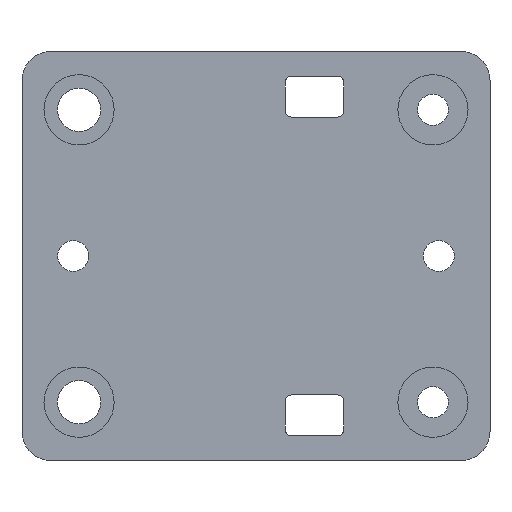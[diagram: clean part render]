
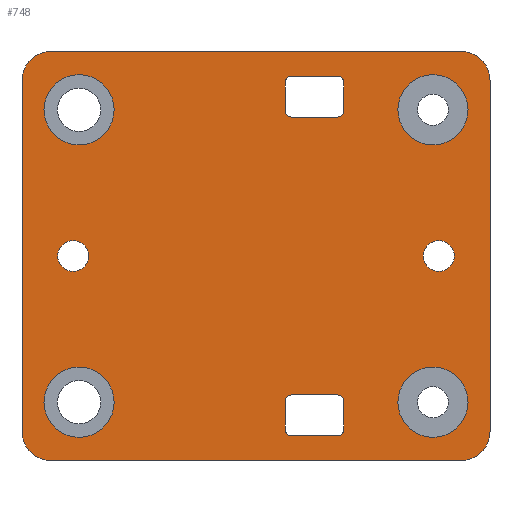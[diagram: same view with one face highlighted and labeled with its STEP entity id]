
A CAD part, front view. The second image highlights one B-rep face of the part: STEP entity #748.
In plain terms, the highlighted planar face has unit normal (0, -1, 0).
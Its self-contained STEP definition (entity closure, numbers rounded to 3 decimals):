
#27=FACE_BOUND('',#145,.T.);
#28=FACE_BOUND('',#146,.T.);
#29=FACE_BOUND('',#147,.T.);
#30=FACE_BOUND('',#148,.T.);
#31=FACE_BOUND('',#149,.T.);
#32=FACE_BOUND('',#150,.T.);
#33=FACE_BOUND('',#151,.T.);
#34=FACE_BOUND('',#152,.T.);
#52=PLANE('',#846);
#92=FACE_OUTER_BOUND('',#144,.T.);
#144=EDGE_LOOP('',(#657,#658,#659,#660,#661,#662,#663,#664));
#145=EDGE_LOOP('',(#665));
#146=EDGE_LOOP('',(#666));
#147=EDGE_LOOP('',(#667));
#148=EDGE_LOOP('',(#668));
#149=EDGE_LOOP('',(#669,#670,#671,#672,#673,#674,#675,#676));
#150=EDGE_LOOP('',(#677,#678,#679,#680,#681,#682,#683,#684));
#151=EDGE_LOOP('',(#685));
#152=EDGE_LOOP('',(#686));
#161=LINE('',#1131,#219);
#165=LINE('',#1143,#223);
#169=LINE('',#1155,#227);
#174=LINE('',#1167,#232);
#177=LINE('',#1179,#235);
#183=LINE('',#1194,#241);
#187=LINE('',#1206,#245);
#190=LINE('',#1215,#248);
#199=LINE('',#1250,#257);
#205=LINE('',#1270,#263);
#208=LINE('',#1278,#266);
#210=LINE('',#1284,#268);
#219=VECTOR('',#913,10.);
#223=VECTOR('',#925,10.);
#227=VECTOR('',#937,10.);
#232=VECTOR('',#950,10.);
#235=VECTOR('',#961,10.);
#241=VECTOR('',#975,10.);
#245=VECTOR('',#987,10.);
#248=VECTOR('',#998,10.);
#257=VECTOR('',#1035,10.);
#263=VECTOR('',#1055,10.);
#266=VECTOR('',#1064,10.);
#268=VECTOR('',#1072,10.);
#269=CIRCLE('',#764,6.);
#272=CIRCLE('',#769,6.);
#275=CIRCLE('',#774,6.);
#278=CIRCLE('',#779,6.);
#283=CIRCLE('',#788,1.);
#285=CIRCLE('',#792,1.);
#287=CIRCLE('',#796,1.);
#289=CIRCLE('',#800,1.);
#291=CIRCLE('',#804,1.);
#293=CIRCLE('',#808,1.);
#295=CIRCLE('',#812,1.);
#297=CIRCLE('',#816,1.);
#299=CIRCLE('',#820,2.65);
#303=CIRCLE('',#827,2.65);
#306=CIRCLE('',#831,5.);
#310=CIRCLE('',#838,5.);
#311=CIRCLE('',#841,5.);
#312=CIRCLE('',#844,5.);
#313=VERTEX_POINT('',#1077);
#316=VERTEX_POINT('',#1086);
#319=VERTEX_POINT('',#1095);
#322=VERTEX_POINT('',#1104);
#327=VERTEX_POINT('',#1121);
#328=VERTEX_POINT('',#1122);
#331=VERTEX_POINT('',#1130);
#333=VERTEX_POINT('',#1136);
#335=VERTEX_POINT('',#1142);
#337=VERTEX_POINT('',#1148);
#339=VERTEX_POINT('',#1154);
#341=VERTEX_POINT('',#1160);
#343=VERTEX_POINT('',#1169);
#344=VERTEX_POINT('',#1170);
#347=VERTEX_POINT('',#1178);
#349=VERTEX_POINT('',#1184);
#350=VERTEX_POINT('',#1185);
#353=VERTEX_POINT('',#1196);
#354=VERTEX_POINT('',#1197);
#357=VERTEX_POINT('',#1208);
#359=VERTEX_POINT('',#1217);
#363=VERTEX_POINT('',#1231);
#367=VERTEX_POINT('',#1240);
#368=VERTEX_POINT('',#1242);
#370=VERTEX_POINT('',#1248);
#376=VERTEX_POINT('',#1264);
#377=VERTEX_POINT('',#1268);
#378=VERTEX_POINT('',#1272);
#379=VERTEX_POINT('',#1276);
#380=VERTEX_POINT('',#1280);
#381=EDGE_CURVE('',#313,#313,#269,.T.);
#385=EDGE_CURVE('',#316,#316,#272,.T.);
#389=EDGE_CURVE('',#319,#319,#275,.T.);
#393=EDGE_CURVE('',#322,#322,#278,.T.);
#401=EDGE_CURVE('',#327,#328,#283,.T.);
#405=EDGE_CURVE('',#331,#328,#161,.T.);
#408=EDGE_CURVE('',#331,#333,#285,.T.);
#411=EDGE_CURVE('',#335,#333,#165,.T.);
#414=EDGE_CURVE('',#335,#337,#287,.T.);
#417=EDGE_CURVE('',#339,#337,#169,.T.);
#420=EDGE_CURVE('',#339,#341,#289,.T.);
#424=EDGE_CURVE('',#327,#341,#174,.T.);
#425=EDGE_CURVE('',#343,#344,#291,.T.);
#429=EDGE_CURVE('',#347,#344,#177,.T.);
#432=EDGE_CURVE('',#349,#350,#293,.T.);
#437=EDGE_CURVE('',#343,#350,#183,.T.);
#438=EDGE_CURVE('',#353,#354,#295,.T.);
#443=EDGE_CURVE('',#349,#354,#187,.T.);
#444=EDGE_CURVE('',#347,#357,#297,.T.);
#448=EDGE_CURVE('',#353,#357,#190,.T.);
#449=EDGE_CURVE('',#359,#359,#299,.T.);
#456=EDGE_CURVE('',#363,#363,#303,.T.);
#461=EDGE_CURVE('',#367,#368,#306,.T.);
#465=EDGE_CURVE('',#370,#367,#199,.T.);
#473=EDGE_CURVE('',#376,#370,#310,.T.);
#475=EDGE_CURVE('',#377,#376,#205,.T.);
#477=EDGE_CURVE('',#378,#377,#311,.T.);
#479=EDGE_CURVE('',#379,#378,#208,.T.);
#481=EDGE_CURVE('',#380,#379,#312,.T.);
#482=EDGE_CURVE('',#368,#380,#210,.T.);
#657=ORIENTED_EDGE('',*,*,#461,.F.);
#658=ORIENTED_EDGE('',*,*,#465,.F.);
#659=ORIENTED_EDGE('',*,*,#473,.F.);
#660=ORIENTED_EDGE('',*,*,#475,.F.);
#661=ORIENTED_EDGE('',*,*,#477,.F.);
#662=ORIENTED_EDGE('',*,*,#479,.F.);
#663=ORIENTED_EDGE('',*,*,#481,.F.);
#664=ORIENTED_EDGE('',*,*,#482,.F.);
#665=ORIENTED_EDGE('',*,*,#381,.T.);
#666=ORIENTED_EDGE('',*,*,#385,.T.);
#667=ORIENTED_EDGE('',*,*,#389,.T.);
#668=ORIENTED_EDGE('',*,*,#393,.T.);
#669=ORIENTED_EDGE('',*,*,#448,.T.);
#670=ORIENTED_EDGE('',*,*,#444,.F.);
#671=ORIENTED_EDGE('',*,*,#429,.T.);
#672=ORIENTED_EDGE('',*,*,#425,.F.);
#673=ORIENTED_EDGE('',*,*,#437,.T.);
#674=ORIENTED_EDGE('',*,*,#432,.F.);
#675=ORIENTED_EDGE('',*,*,#443,.T.);
#676=ORIENTED_EDGE('',*,*,#438,.F.);
#677=ORIENTED_EDGE('',*,*,#424,.T.);
#678=ORIENTED_EDGE('',*,*,#420,.F.);
#679=ORIENTED_EDGE('',*,*,#417,.T.);
#680=ORIENTED_EDGE('',*,*,#414,.F.);
#681=ORIENTED_EDGE('',*,*,#411,.T.);
#682=ORIENTED_EDGE('',*,*,#408,.F.);
#683=ORIENTED_EDGE('',*,*,#405,.T.);
#684=ORIENTED_EDGE('',*,*,#401,.F.);
#685=ORIENTED_EDGE('',*,*,#449,.T.);
#686=ORIENTED_EDGE('',*,*,#456,.T.);
#748=ADVANCED_FACE('',(#92,#27,#28,#29,#30,#31,#32,#33,#34),#52,.F.);
#764=AXIS2_PLACEMENT_3D('',#1078,#851,#852);
#769=AXIS2_PLACEMENT_3D('',#1087,#862,#863);
#774=AXIS2_PLACEMENT_3D('',#1096,#873,#874);
#779=AXIS2_PLACEMENT_3D('',#1105,#884,#885);
#788=AXIS2_PLACEMENT_3D('',#1123,#905,#906);
#792=AXIS2_PLACEMENT_3D('',#1137,#918,#919);
#796=AXIS2_PLACEMENT_3D('',#1149,#930,#931);
#800=AXIS2_PLACEMENT_3D('',#1161,#942,#943);
#804=AXIS2_PLACEMENT_3D('',#1171,#953,#954);
#808=AXIS2_PLACEMENT_3D('',#1186,#966,#967);
#812=AXIS2_PLACEMENT_3D('',#1198,#978,#979);
#816=AXIS2_PLACEMENT_3D('',#1209,#990,#991);
#820=AXIS2_PLACEMENT_3D('',#1218,#1001,#1002);
#827=AXIS2_PLACEMENT_3D('',#1232,#1018,#1019);
#831=AXIS2_PLACEMENT_3D('',#1243,#1028,#1029);
#838=AXIS2_PLACEMENT_3D('',#1266,#1050,#1051);
#841=AXIS2_PLACEMENT_3D('',#1274,#1059,#1060);
#844=AXIS2_PLACEMENT_3D('',#1282,#1068,#1069);
#846=AXIS2_PLACEMENT_3D('',#1285,#1073,#1074);
#851=DIRECTION('center_axis',(0.,1.,0.));
#852=DIRECTION('ref_axis',(1.,0.,0.));
#862=DIRECTION('center_axis',(0.,1.,0.));
#863=DIRECTION('ref_axis',(1.,0.,0.));
#873=DIRECTION('center_axis',(0.,1.,0.));
#874=DIRECTION('ref_axis',(1.,0.,0.));
#884=DIRECTION('center_axis',(0.,1.,0.));
#885=DIRECTION('ref_axis',(1.,0.,0.));
#905=DIRECTION('center_axis',(0.,-1.,0.));
#906=DIRECTION('ref_axis',(-0.707,0.,-0.707));
#913=DIRECTION('',(-1.,0.,0.));
#918=DIRECTION('center_axis',(0.,-1.,0.));
#919=DIRECTION('ref_axis',(0.707,0.,-0.707));
#925=DIRECTION('',(0.,0.,-1.));
#930=DIRECTION('center_axis',(0.,-1.,0.));
#931=DIRECTION('ref_axis',(0.707,0.,0.707));
#937=DIRECTION('',(1.,0.,0.));
#942=DIRECTION('center_axis',(0.,-1.,0.));
#943=DIRECTION('ref_axis',(-0.707,0.,0.707));
#950=DIRECTION('',(0.,0.,1.));
#953=DIRECTION('center_axis',(0.,-1.,0.));
#954=DIRECTION('ref_axis',(-0.707,0.,0.707));
#961=DIRECTION('',(0.,0.,1.));
#966=DIRECTION('center_axis',(0.,-1.,0.));
#967=DIRECTION('ref_axis',(0.707,0.,0.707));
#975=DIRECTION('',(1.,0.,0.));
#978=DIRECTION('center_axis',(0.,-1.,0.));
#979=DIRECTION('ref_axis',(0.707,0.,-0.707));
#987=DIRECTION('',(0.,0.,-1.));
#990=DIRECTION('center_axis',(0.,-1.,0.));
#991=DIRECTION('ref_axis',(-0.707,0.,-0.707));
#998=DIRECTION('',(-1.,0.,0.));
#1001=DIRECTION('center_axis',(0.,1.,0.));
#1002=DIRECTION('ref_axis',(1.,0.,0.));
#1018=DIRECTION('center_axis',(0.,1.,0.));
#1019=DIRECTION('ref_axis',(1.,0.,0.));
#1028=DIRECTION('center_axis',(0.,1.,0.));
#1029=DIRECTION('ref_axis',(-0.707,0.,0.707));
#1035=DIRECTION('',(0.,0.,1.));
#1050=DIRECTION('center_axis',(0.,1.,0.));
#1051=DIRECTION('ref_axis',(-0.707,0.,-0.707));
#1055=DIRECTION('',(-1.,0.,0.));
#1059=DIRECTION('center_axis',(0.,1.,0.));
#1060=DIRECTION('ref_axis',(0.707,0.,-0.707));
#1064=DIRECTION('',(0.,0.,-1.));
#1068=DIRECTION('center_axis',(0.,1.,0.));
#1069=DIRECTION('ref_axis',(0.707,0.,0.707));
#1072=DIRECTION('',(1.,0.,0.));
#1073=DIRECTION('center_axis',(0.,1.,0.));
#1074=DIRECTION('ref_axis',(1.,0.,0.));
#1077=CARTESIAN_POINT('',(24.25,0.,25.));
#1078=CARTESIAN_POINT('Origin',(30.25,0.,25.));
#1086=CARTESIAN_POINT('',(24.25,0.,-25.));
#1087=CARTESIAN_POINT('Origin',(30.25,0.,-25.));
#1095=CARTESIAN_POINT('',(-36.25,0.,25.));
#1096=CARTESIAN_POINT('Origin',(-30.25,0.,25.));
#1104=CARTESIAN_POINT('',(-36.25,0.,-25.));
#1105=CARTESIAN_POINT('Origin',(-30.25,0.,-25.));
#1121=CARTESIAN_POINT('',(5.,0.,-29.75));
#1122=CARTESIAN_POINT('',(6.,0.,-30.75));
#1123=CARTESIAN_POINT('Origin',(6.,0.,-29.75));
#1130=CARTESIAN_POINT('',(14.,0.,-30.75));
#1131=CARTESIAN_POINT('',(7.5,0.,-30.75));
#1136=CARTESIAN_POINT('',(15.,0.,-29.75));
#1137=CARTESIAN_POINT('Origin',(14.,0.,-29.75));
#1142=CARTESIAN_POINT('',(15.,0.,-24.75));
#1143=CARTESIAN_POINT('',(15.,0.,-11.875));
#1148=CARTESIAN_POINT('',(14.,0.,-23.75));
#1149=CARTESIAN_POINT('Origin',(14.,0.,-24.75));
#1154=CARTESIAN_POINT('',(6.,0.,-23.75));
#1155=CARTESIAN_POINT('',(2.5,0.,-23.75));
#1160=CARTESIAN_POINT('',(5.,0.,-24.75));
#1161=CARTESIAN_POINT('Origin',(6.,0.,-24.75));
#1167=CARTESIAN_POINT('',(5.,0.,-15.375));
#1169=CARTESIAN_POINT('',(6.,0.,30.75));
#1170=CARTESIAN_POINT('',(5.,0.,29.75));
#1171=CARTESIAN_POINT('Origin',(6.,0.,29.75));
#1178=CARTESIAN_POINT('',(5.,0.,24.75));
#1179=CARTESIAN_POINT('',(5.,0.,11.875));
#1184=CARTESIAN_POINT('',(15.,0.,29.75));
#1185=CARTESIAN_POINT('',(14.,0.,30.75));
#1186=CARTESIAN_POINT('Origin',(14.,0.,29.75));
#1194=CARTESIAN_POINT('',(2.5,0.,30.75));
#1196=CARTESIAN_POINT('',(14.,0.,23.75));
#1197=CARTESIAN_POINT('',(15.,0.,24.75));
#1198=CARTESIAN_POINT('Origin',(14.,0.,24.75));
#1206=CARTESIAN_POINT('',(15.,0.,15.375));
#1208=CARTESIAN_POINT('',(6.,0.,23.75));
#1209=CARTESIAN_POINT('Origin',(6.,0.,24.75));
#1215=CARTESIAN_POINT('',(7.5,0.,23.75));
#1217=CARTESIAN_POINT('',(28.6,0.,0.));
#1218=CARTESIAN_POINT('Origin',(31.25,0.,0.));
#1231=CARTESIAN_POINT('',(-33.9,0.,0.));
#1232=CARTESIAN_POINT('Origin',(-31.25,0.,0.));
#1240=CARTESIAN_POINT('',(-40.,0.,30.));
#1242=CARTESIAN_POINT('',(-35.,0.,35.));
#1243=CARTESIAN_POINT('Origin',(-35.,0.,30.));
#1248=CARTESIAN_POINT('',(-40.,0.,-30.));
#1250=CARTESIAN_POINT('',(-40.,0.,-35.));
#1264=CARTESIAN_POINT('',(-35.,0.,-35.));
#1266=CARTESIAN_POINT('Origin',(-35.,0.,-30.));
#1268=CARTESIAN_POINT('',(35.,0.,-35.));
#1270=CARTESIAN_POINT('',(40.,0.,-35.));
#1272=CARTESIAN_POINT('',(40.,0.,-30.));
#1274=CARTESIAN_POINT('Origin',(35.,0.,-30.));
#1276=CARTESIAN_POINT('',(40.,0.,30.));
#1278=CARTESIAN_POINT('',(40.,0.,35.));
#1280=CARTESIAN_POINT('',(35.,0.,35.));
#1282=CARTESIAN_POINT('Origin',(35.,0.,30.));
#1284=CARTESIAN_POINT('',(-40.,0.,35.));
#1285=CARTESIAN_POINT('Origin',(0.,0.,0.));
